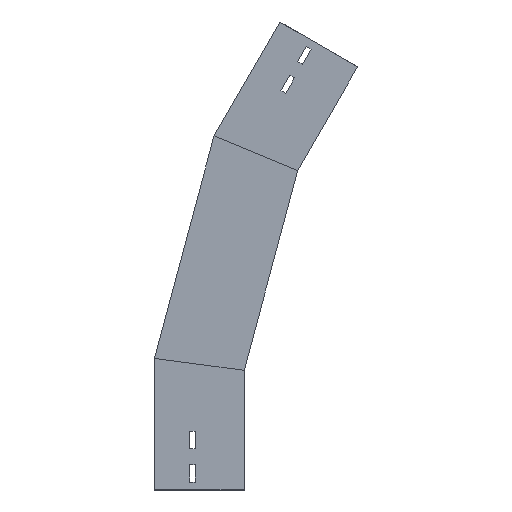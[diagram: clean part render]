
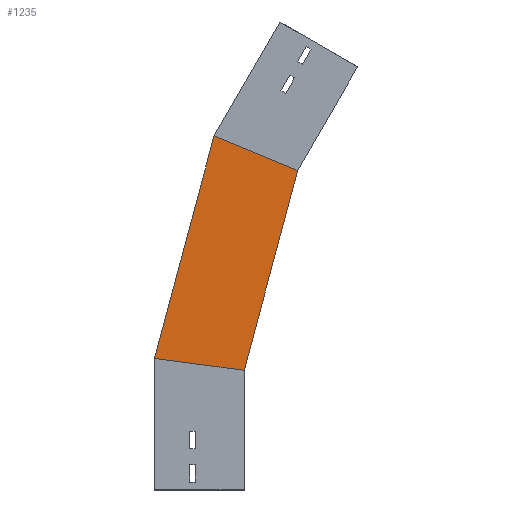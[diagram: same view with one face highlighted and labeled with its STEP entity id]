
A CAD part, left-side view. The second image highlights one B-rep face of the part: STEP entity #1235.
In plain terms, the highlighted planar face has unit normal (-1, 0, 0) as drawn and (1, 0, 0) by its records, which use the part's own axes.
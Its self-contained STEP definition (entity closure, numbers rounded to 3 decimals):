
#1 = LINE ( 'NONE', #360, #476 ) ;
#22 = VERTEX_POINT ( 'NONE', #424 ) ;
#66 = PLANE ( 'NONE',  #242 ) ;
#94 = VECTOR ( 'NONE', #184, 1000. ) ;
#184 = DIRECTION ( 'NONE',  ( 0., -0.259, 0.966 ) ) ;
#207 = EDGE_CURVE ( 'NONE', #690, #22, #1395, .T. ) ;
#221 = LINE ( 'NONE', #829, #1039 ) ;
#237 = DIRECTION ( 'NONE',  ( 0., -0.259, 0.966 ) ) ;
#238 = EDGE_CURVE ( 'NONE', #1487, #690, #420, .T. ) ;
#242 = AXIS2_PLACEMENT_3D ( 'NONE', #1461, #786, #1248 ) ;
#343 = EDGE_CURVE ( 'NONE', #1074, #22, #221, .T. ) ;
#353 = DIRECTION ( 'NONE',  ( 0., -0.924, -0.383 ) ) ;
#360 = CARTESIAN_POINT ( 'NONE',  ( 0., -19.411, 147.444 ) ) ;
#372 = ORIENTED_EDGE ( 'NONE', *, *, #238, .T. ) ;
#384 = ORIENTED_EDGE ( 'NONE', *, *, #538, .F. ) ;
#420 = LINE ( 'NONE', #1445, #94 ) ;
#424 = CARTESIAN_POINT ( 'NONE',  ( 0., -67.034, 400.175 ) ) ;
#476 = VECTOR ( 'NONE', #1253, 1000. ) ;
#508 = ORIENTED_EDGE ( 'NONE', *, *, #207, .T. ) ;
#538 = EDGE_CURVE ( 'NONE', #1487, #1074, #1, .T. ) ;
#603 = CARTESIAN_POINT ( 'NONE',  ( 0., -100.244, 386.419 ) ) ;
#633 = VECTOR ( 'NONE', #353, 1000. ) ;
#690 = VERTEX_POINT ( 'NONE', #1180 ) ;
#723 = CARTESIAN_POINT ( 'NONE',  ( 0., 0., 150. ) ) ;
#786 = DIRECTION ( 'NONE',  ( 1., 0., 0. ) ) ;
#829 = CARTESIAN_POINT ( 'NONE',  ( 0., 4.243, 134.167 ) ) ;
#879 = EDGE_LOOP ( 'NONE', ( #372, #508, #1278, #384 ) ) ;
#894 = CARTESIAN_POINT ( 'NONE',  ( 0., 112.5, 164.811 ) ) ;
#1039 = VECTOR ( 'NONE', #237, 1000. ) ;
#1074 = VERTEX_POINT ( 'NONE', #723 ) ;
#1105 = FACE_OUTER_BOUND ( 'NONE', #879, .T. ) ;
#1180 = CARTESIAN_POINT ( 'NONE',  ( 0., 37.799, 443.598 ) ) ;
#1235 = ADVANCED_FACE ( 'NONE', ( #1105 ), #66, .T. ) ;
#1248 = DIRECTION ( 'NONE',  ( 0., 0., -1. ) ) ;
#1253 = DIRECTION ( 'NONE',  ( 0., -0.991, -0.131 ) ) ;
#1278 = ORIENTED_EDGE ( 'NONE', *, *, #343, .F. ) ;
#1395 = LINE ( 'NONE', #603, #633 ) ;
#1445 = CARTESIAN_POINT ( 'NONE',  ( 0., 112.909, 163.284 ) ) ;
#1461 = CARTESIAN_POINT ( 'NONE',  ( 0., 4.243, 134.167 ) ) ;
#1487 = VERTEX_POINT ( 'NONE', #894 ) ;
